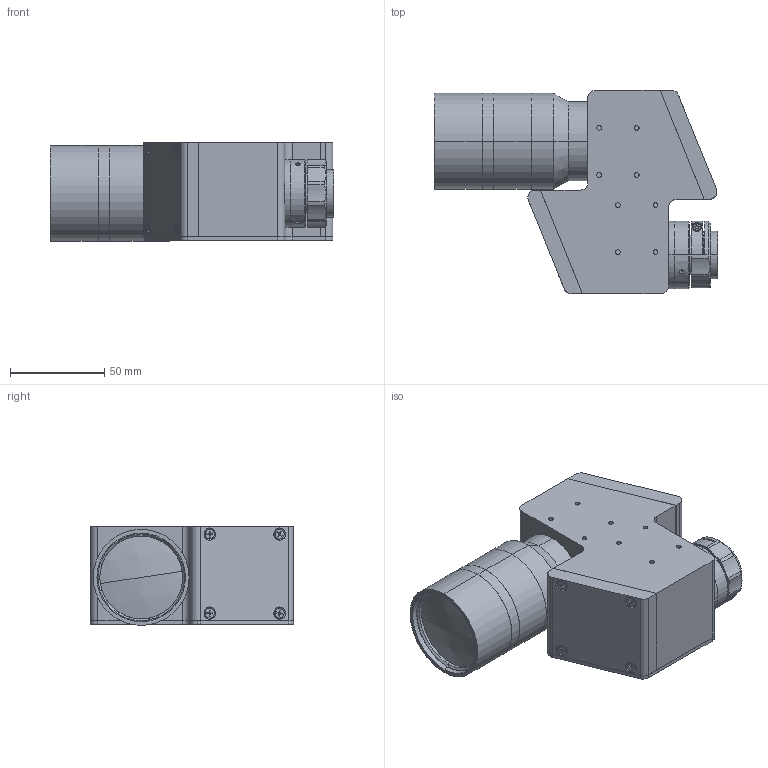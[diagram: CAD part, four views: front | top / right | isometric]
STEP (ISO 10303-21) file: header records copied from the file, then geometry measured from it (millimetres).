
FILE_DESCRIPTION (( 'STEP AP203' ), '1' );
FILE_NAME ('XF-MH04X681.STEP', '2020-08-24T07:18:44', ( 'canrill-02' ), ( '' ), 'SwSTEP 2.0', 'SolidWorks 2014', '' );
FILE_SCHEMA (( 'CONFIG_CONTROL_DESIGN' ));
Length unit declared in the file: millimetre
Products named in the file (1): XF-MH04X681
Bounding box: 150.58 x 108 x 52.5 mm (x, y, z)
Surface area: 58249.4 mm2 (no closed solid volume)
Topology: 0 solids, 31 shells, 408 faces, 1299 edges, 903 vertices
Faces by surface type: plane 207, cylinder 154, cone 43, sphere 2, torus 2
Entity records: 14655 total; most frequent: CARTESIAN_POINT 2904, DIRECTION 2552, ORIENTED_EDGE 2140, EDGE_CURVE 1297, VERTEX_POINT 903, AXIS2_PLACEMENT_3D 871, VECTOR 810, LINE 810
